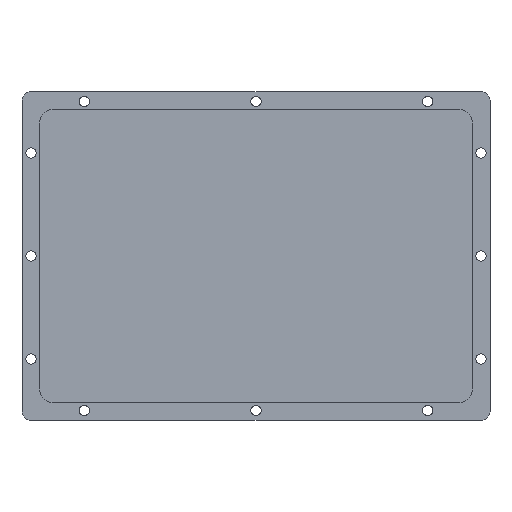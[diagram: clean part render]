
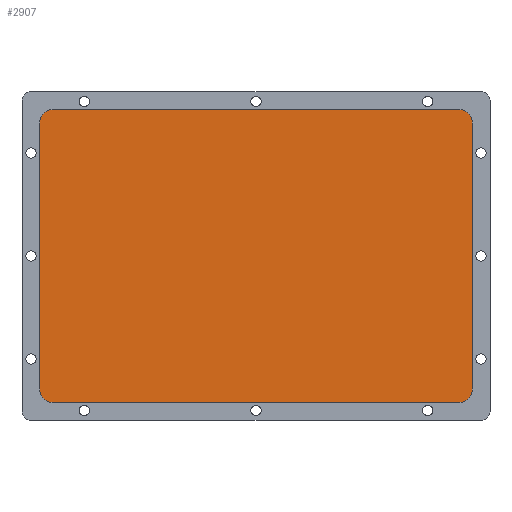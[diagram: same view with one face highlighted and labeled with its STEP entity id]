
A CAD part, front view. The second image highlights one B-rep face of the part: STEP entity #2907.
In plain terms, the highlighted planar face has unit normal (0, -1, 0).
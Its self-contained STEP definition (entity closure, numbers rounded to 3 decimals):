
#198=PLANE('',#3215);
#330=FACE_OUTER_BOUND('',#492,.T.);
#492=EDGE_LOOP('',(#2097,#2098,#2099,#2100,#2101,#2102,#2103,#2104));
#679=LINE('',#4346,#998);
#685=LINE('',#4361,#1004);
#687=LINE('',#4367,#1006);
#688=LINE('',#4369,#1007);
#998=VECTOR('',#3490,10.);
#1004=VECTOR('',#3506,10.);
#1006=VECTOR('',#3514,10.);
#1007=VECTOR('',#3517,10.);
#1312=CIRCLE('',#3200,8.);
#1316=CIRCLE('',#3207,8.);
#1317=CIRCLE('',#3209,8.);
#1318=CIRCLE('',#3212,8.);
#1385=VERTEX_POINT('',#4325);
#1386=VERTEX_POINT('',#4327);
#1393=VERTEX_POINT('',#4345);
#1394=VERTEX_POINT('',#4349);
#1395=VERTEX_POINT('',#4353);
#1396=VERTEX_POINT('',#4355);
#1397=VERTEX_POINT('',#4359);
#1398=VERTEX_POINT('',#4363);
#1655=EDGE_CURVE('',#1385,#1386,#1312,.T.);
#1664=EDGE_CURVE('',#1386,#1393,#679,.T.);
#1666=EDGE_CURVE('',#1393,#1394,#1316,.T.);
#1669=EDGE_CURVE('',#1395,#1396,#1317,.T.);
#1672=EDGE_CURVE('',#1397,#1395,#685,.T.);
#1674=EDGE_CURVE('',#1398,#1397,#1318,.T.);
#1675=EDGE_CURVE('',#1394,#1398,#687,.T.);
#1676=EDGE_CURVE('',#1396,#1385,#688,.T.);
#2097=ORIENTED_EDGE('',*,*,#1655,.F.);
#2098=ORIENTED_EDGE('',*,*,#1676,.F.);
#2099=ORIENTED_EDGE('',*,*,#1669,.F.);
#2100=ORIENTED_EDGE('',*,*,#1672,.F.);
#2101=ORIENTED_EDGE('',*,*,#1674,.F.);
#2102=ORIENTED_EDGE('',*,*,#1675,.F.);
#2103=ORIENTED_EDGE('',*,*,#1666,.F.);
#2104=ORIENTED_EDGE('',*,*,#1664,.F.);
#2907=ADVANCED_FACE('',(#330),#198,.F.);
#3200=AXIS2_PLACEMENT_3D('',#4328,#3473,#3474);
#3207=AXIS2_PLACEMENT_3D('',#4350,#3494,#3495);
#3209=AXIS2_PLACEMENT_3D('',#4356,#3500,#3501);
#3212=AXIS2_PLACEMENT_3D('',#4365,#3510,#3511);
#3215=AXIS2_PLACEMENT_3D('',#4370,#3518,#3519);
#3473=DIRECTION('center_axis',(0.,1.,0.));
#3474=DIRECTION('ref_axis',(-0.707,0.,-0.707));
#3490=DIRECTION('',(0.,0.,1.));
#3494=DIRECTION('center_axis',(0.,1.,0.));
#3495=DIRECTION('ref_axis',(-0.707,0.,0.707));
#3500=DIRECTION('center_axis',(0.,1.,0.));
#3501=DIRECTION('ref_axis',(0.707,0.,-0.707));
#3506=DIRECTION('',(0.,0.,-1.));
#3510=DIRECTION('center_axis',(0.,1.,0.));
#3511=DIRECTION('ref_axis',(0.707,0.,0.707));
#3514=DIRECTION('',(1.,0.,0.));
#3517=DIRECTION('',(-1.,0.,0.));
#3518=DIRECTION('center_axis',(0.,1.,0.));
#3519=DIRECTION('ref_axis',(1.,0.,0.));
#4325=CARTESIAN_POINT('',(-118.03,0.,-85.35));
#4327=CARTESIAN_POINT('',(-126.03,0.,-77.35));
#4328=CARTESIAN_POINT('Origin',(-118.03,0.,-77.35));
#4345=CARTESIAN_POINT('',(-126.03,0.,77.35));
#4346=CARTESIAN_POINT('',(-126.03,0.,-85.35));
#4349=CARTESIAN_POINT('',(-118.03,0.,85.35));
#4350=CARTESIAN_POINT('Origin',(-118.03,0.,77.35));
#4353=CARTESIAN_POINT('',(126.03,0.,-77.35));
#4355=CARTESIAN_POINT('',(118.03,0.,-85.35));
#4356=CARTESIAN_POINT('Origin',(118.03,0.,-77.35));
#4359=CARTESIAN_POINT('',(126.03,0.,77.35));
#4361=CARTESIAN_POINT('',(126.03,0.,85.35));
#4363=CARTESIAN_POINT('',(118.03,0.,85.35));
#4365=CARTESIAN_POINT('Origin',(118.03,0.,77.35));
#4367=CARTESIAN_POINT('',(-126.03,0.,85.35));
#4369=CARTESIAN_POINT('',(126.03,0.,-85.35));
#4370=CARTESIAN_POINT('Origin',(0.,0.,0.));
